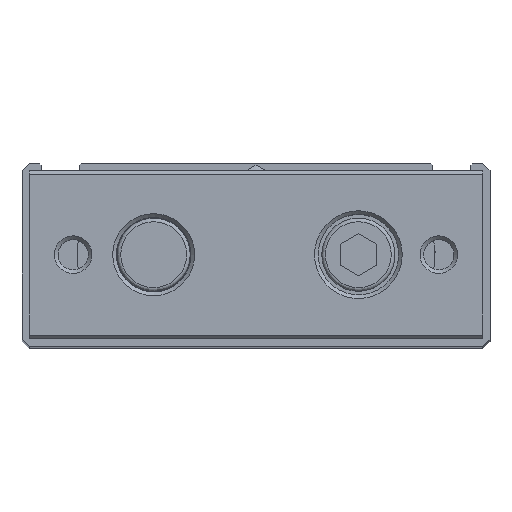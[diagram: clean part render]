
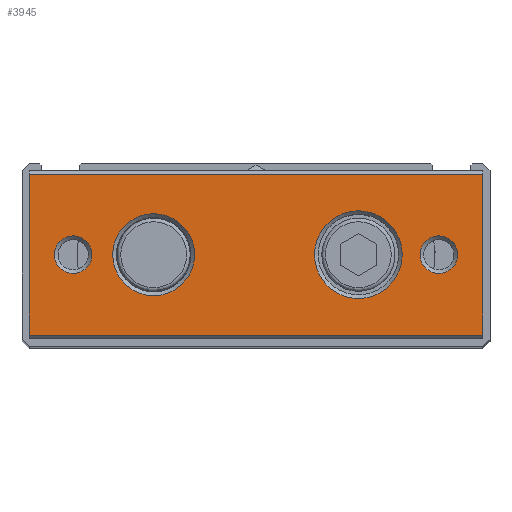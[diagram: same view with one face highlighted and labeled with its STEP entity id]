
A CAD part, top view. The second image highlights one B-rep face of the part: STEP entity #3945.
In plain terms, the highlighted planar face has unit normal (0, 0, 1).
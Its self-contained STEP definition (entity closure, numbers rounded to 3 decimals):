
#3393=CARTESIAN_POINT('',(-31.0,-11.,184.0));
#3394=VERTEX_POINT('',#3393);
#3401=CARTESIAN_POINT('',(-31.0,11.,184.0));
#3402=VERTEX_POINT('',#3401);
#3403=CARTESIAN_POINT('',(-31.0,11.,184.0));
#3404=DIRECTION('',(0.0,-1.0,0.0));
#3405=VECTOR('',#3404,22.);
#3406=LINE('',#3403,#3405);
#3407=EDGE_CURVE('',#3402,#3394,#3406,.T.);
#3521=CARTESIAN_POINT('',(31.0,-11.,184.0));
#3522=VERTEX_POINT('',#3521);
#3529=CARTESIAN_POINT('',(31.0,-11.,184.0));
#3530=DIRECTION('',(-1.0,0.0,0.0));
#3531=VECTOR('',#3530,62.0);
#3532=LINE('',#3529,#3531);
#3533=EDGE_CURVE('',#3522,#3394,#3532,.T.);
#3600=CARTESIAN_POINT('',(31.0,11.,184.0));
#3601=VERTEX_POINT('',#3600);
#3608=CARTESIAN_POINT('',(31.0,-11.,184.0));
#3609=DIRECTION('',(0.0,1.0,0.0));
#3610=VECTOR('',#3609,22.);
#3611=LINE('',#3608,#3610);
#3612=EDGE_CURVE('',#3522,#3601,#3611,.T.);
#3881=CARTESIAN_POINT('',(20.0,0.,184.0));
#3882=VERTEX_POINT('',#3881);
#3883=CARTESIAN_POINT('',(14.0,0.,184.0));
#3884=DIRECTION('',(0.0,0.0,1.0));
#3885=DIRECTION('',(-1.0,0.0,0.0));
#3886=AXIS2_PLACEMENT_3D('',#3883,#3884,#3885);
#3887=CIRCLE('',#3886,6.);
#3888=EDGE_CURVE('',#3882,#3882,#3887,.T.);
#3893=CARTESIAN_POINT('',(0.0,-11.5,184.0));
#3894=DIRECTION('',(0.0,0.0,1.0));
#3895=DIRECTION('',(1.0,0.0,0.0));
#3896=AXIS2_PLACEMENT_3D('',#3893,#3894,#3895);
#3897=PLANE('',#3896);
#3898=ORIENTED_EDGE('',*,*,#3533,.F.);
#3899=ORIENTED_EDGE('',*,*,#3612,.T.);
#3900=CARTESIAN_POINT('',(-31.0,11.,184.0));
#3901=DIRECTION('',(1.0,0.0,0.0));
#3902=VECTOR('',#3901,62.0);
#3903=LINE('',#3900,#3902);
#3904=EDGE_CURVE('',#3402,#3601,#3903,.T.);
#3905=ORIENTED_EDGE('',*,*,#3904,.F.);
#3906=ORIENTED_EDGE('',*,*,#3407,.T.);
#3907=EDGE_LOOP('',(#3898,#3899,#3905,#3906));
#3908=FACE_OUTER_BOUND('',#3907,.T.);
#3909=CARTESIAN_POINT('',(-8.4,0.,184.0));
#3910=VERTEX_POINT('',#3909);
#3911=CARTESIAN_POINT('',(-14.,0.,184.0));
#3912=DIRECTION('',(0.0,0.0,1.0));
#3913=DIRECTION('',(-1.0,0.0,0.0));
#3914=AXIS2_PLACEMENT_3D('',#3911,#3912,#3913);
#3915=CIRCLE('',#3914,5.6);
#3916=EDGE_CURVE('',#3910,#3910,#3915,.T.);
#3917=ORIENTED_EDGE('',*,*,#3916,.F.);
#3918=EDGE_LOOP('',(#3917));
#3919=FACE_BOUND('',#3918,.T.);
#3920=CARTESIAN_POINT('',(27.567,0.,184.0));
#3921=VERTEX_POINT('',#3920);
#3922=CARTESIAN_POINT('',(25.,0.,184.0));
#3923=DIRECTION('',(0.0,0.0,1.0));
#3924=DIRECTION('',(-1.0,0.0,0.0));
#3925=AXIS2_PLACEMENT_3D('',#3922,#3923,#3924);
#3926=CIRCLE('',#3925,2.567);
#3927=EDGE_CURVE('',#3921,#3921,#3926,.T.);
#3928=ORIENTED_EDGE('',*,*,#3927,.F.);
#3929=EDGE_LOOP('',(#3928));
#3930=FACE_BOUND('',#3929,.T.);
#3931=CARTESIAN_POINT('',(-22.433,0.,184.0));
#3932=VERTEX_POINT('',#3931);
#3933=CARTESIAN_POINT('',(-25.0,0.,184.0));
#3934=DIRECTION('',(0.0,0.0,1.0));
#3935=DIRECTION('',(-1.0,0.0,0.0));
#3936=AXIS2_PLACEMENT_3D('',#3933,#3934,#3935);
#3937=CIRCLE('',#3936,2.567);
#3938=EDGE_CURVE('',#3932,#3932,#3937,.T.);
#3939=ORIENTED_EDGE('',*,*,#3938,.F.);
#3940=EDGE_LOOP('',(#3939));
#3941=FACE_BOUND('',#3940,.T.);
#3942=ORIENTED_EDGE('',*,*,#3888,.F.);
#3943=EDGE_LOOP('',(#3942));
#3944=FACE_BOUND('',#3943,.T.);
#3945=ADVANCED_FACE('',(#3908,#3919,#3930,#3941,#3944),#3897,.T.);
